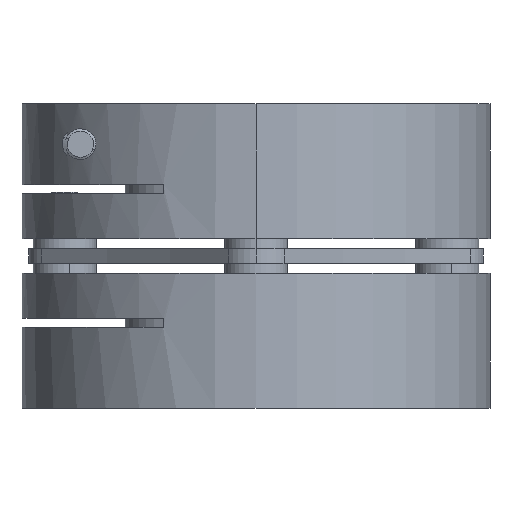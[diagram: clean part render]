
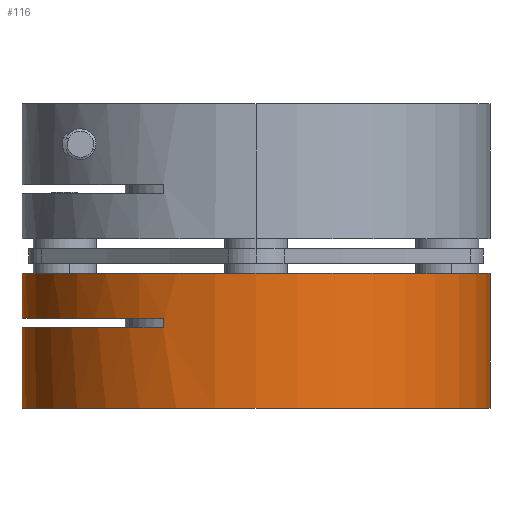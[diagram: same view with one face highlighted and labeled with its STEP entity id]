
A CAD part, left-side view. The second image highlights one B-rep face of the part: STEP entity #116.
In plain terms, the highlighted cylindrical face has radius 52 mm (diameter 104 mm), a partial arc.
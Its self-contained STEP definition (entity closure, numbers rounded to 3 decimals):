
#116 = ADVANCED_FACE ( 'NONE', ( #1428 ), #6070, .T. ) ;
#190 = DIRECTION ( 'NONE',  ( 0., 0., -1. ) ) ;
#714 = DIRECTION ( 'NONE',  ( 0., 0., 1. ) ) ;
#740 = CARTESIAN_POINT ( 'NONE',  ( -131.828, 211.612, 73.237 ) ) ;
#809 = DIRECTION ( 'NONE',  ( 0., 0., 1. ) ) ;
#1297 = DIRECTION ( 'NONE',  ( 0., 0., 1. ) ) ;
#1428 = FACE_OUTER_BOUND ( 'NONE', #12555, .T. ) ;
#1431 = DIRECTION ( 'NONE',  ( 0., -1., 0. ) ) ;
#1571 = EDGE_CURVE ( 'NONE', #9182, #6116, #2139, .T. ) ;
#1575 = CIRCLE ( 'NONE', #3373, 52. ) ;
#1736 = CARTESIAN_POINT ( 'NONE',  ( -84.098, 190.975, 73.237 ) ) ;
#1969 = EDGE_CURVE ( 'NONE', #14456, #6116, #2457, .T. ) ;
#1990 = LINE ( 'NONE', #14189, #13634 ) ;
#2139 = CIRCLE ( 'NONE', #7688, 52. ) ;
#2457 = LINE ( 'NONE', #13452, #11530 ) ;
#2527 = EDGE_CURVE ( 'NONE', #8937, #14456, #14537, .T. ) ;
#2609 = AXIS2_PLACEMENT_3D ( 'NONE', #7041, #190, #8224 ) ;
#3235 = VERTEX_POINT ( 'NONE', #5716 ) ;
#3373 = AXIS2_PLACEMENT_3D ( 'NONE', #3604, #11571, #4747 ) ;
#3414 = CARTESIAN_POINT ( 'NONE',  ( -84.098, 138.975, 53.237 ) ) ;
#3604 = CARTESIAN_POINT ( 'NONE',  ( -84.098, 190.975, 53.237 ) ) ;
#4201 = CARTESIAN_POINT ( 'NONE',  ( -84.098, 242.975, 53.237 ) ) ;
#4229 = AXIS2_PLACEMENT_3D ( 'NONE', #10077, #10061, #10044 ) ;
#4747 = DIRECTION ( 'NONE',  ( 0., 1., 0. ) ) ;
#4961 = AXIS2_PLACEMENT_3D ( 'NONE', #12271, #12274, #12015 ) ;
#5280 = ORIENTED_EDGE ( 'NONE', *, *, #13930, .F. ) ;
#5296 = ORIENTED_EDGE ( 'NONE', *, *, #14559, .F. ) ;
#5399 = ORIENTED_EDGE ( 'NONE', *, *, #14312, .T. ) ;
#5436 = ORIENTED_EDGE ( 'NONE', *, *, #14584, .T. ) ;
#5629 = ORIENTED_EDGE ( 'NONE', *, *, #14261, .F. ) ;
#5716 = CARTESIAN_POINT ( 'NONE',  ( -84.098, 138.975, 83.237 ) ) ;
#5765 = ORIENTED_EDGE ( 'NONE', *, *, #1571, .T. ) ;
#5840 = ORIENTED_EDGE ( 'NONE', *, *, #1969, .F. ) ;
#5940 = ORIENTED_EDGE ( 'NONE', *, *, #2527, .F. ) ;
#6040 = VECTOR ( 'NONE', #809, 1000. ) ;
#6070 = CYLINDRICAL_SURFACE ( 'NONE', #4961, 52. ) ;
#6116 = VERTEX_POINT ( 'NONE', #740 ) ;
#6613 = CARTESIAN_POINT ( 'NONE',  ( -84.098, 138.975, 53.237 ) ) ;
#6871 = CARTESIAN_POINT ( 'NONE',  ( -84.098, 242.975, 73.237 ) ) ;
#6915 = CIRCLE ( 'NONE', #2609, 52. ) ;
#6968 = VERTEX_POINT ( 'NONE', #3414 ) ;
#7041 = CARTESIAN_POINT ( 'NONE',  ( -84.098, 190.975, 83.237 ) ) ;
#7688 = AXIS2_PLACEMENT_3D ( 'NONE', #1736, #1297, #1431 ) ;
#7977 = CARTESIAN_POINT ( 'NONE',  ( -131.828, 211.612, 71.237 ) ) ;
#8224 = DIRECTION ( 'NONE',  ( 0., 1., 0. ) ) ;
#8937 = VERTEX_POINT ( 'NONE', #10085 ) ;
#9182 = VERTEX_POINT ( 'NONE', #6871 ) ;
#9456 = LINE ( 'NONE', #4201, #6040 ) ;
#10044 = DIRECTION ( 'NONE',  ( 0., -1., 0. ) ) ;
#10061 = DIRECTION ( 'NONE',  ( 0., 0., 1. ) ) ;
#10077 = CARTESIAN_POINT ( 'NONE',  ( -84.098, 190.975, 71.237 ) ) ;
#10085 = CARTESIAN_POINT ( 'NONE',  ( -84.098, 242.975, 71.237 ) ) ;
#10717 = VERTEX_POINT ( 'NONE', #12034 ) ;
#11195 = CARTESIAN_POINT ( 'NONE',  ( -84.098, 242.975, 83.237 ) ) ;
#11530 = VECTOR ( 'NONE', #13528, 1000. ) ;
#11571 = DIRECTION ( 'NONE',  ( 0., 0., -1. ) ) ;
#12015 = DIRECTION ( 'NONE',  ( 0., -1., 0. ) ) ;
#12034 = CARTESIAN_POINT ( 'NONE',  ( -84.098, 242.975, 53.237 ) ) ;
#12271 = CARTESIAN_POINT ( 'NONE',  ( -84.098, 190.975, 53.237 ) ) ;
#12274 = DIRECTION ( 'NONE',  ( 0., 0., 1. ) ) ;
#12555 = EDGE_LOOP ( 'NONE', ( #5280, #5296, #5399, #5436, #5629, #5765, #5840, #5940 ) ) ;
#13368 = DIRECTION ( 'NONE',  ( 0., 0., 1. ) ) ;
#13452 = CARTESIAN_POINT ( 'NONE',  ( -131.828, 211.612, 71.237 ) ) ;
#13528 = DIRECTION ( 'NONE',  ( 0., 0., 1. ) ) ;
#13622 = LINE ( 'NONE', #6613, #14577 ) ;
#13634 = VECTOR ( 'NONE', #714, 1000. ) ;
#13930 = EDGE_CURVE ( 'NONE', #10717, #8937, #1990, .T. ) ;
#14125 = VERTEX_POINT ( 'NONE', #11195 ) ;
#14189 = CARTESIAN_POINT ( 'NONE',  ( -84.098, 242.975, 53.237 ) ) ;
#14261 = EDGE_CURVE ( 'NONE', #9182, #14125, #9456, .T. ) ;
#14312 = EDGE_CURVE ( 'NONE', #6968, #3235, #13622, .T. ) ;
#14456 = VERTEX_POINT ( 'NONE', #7977 ) ;
#14537 = CIRCLE ( 'NONE', #4229, 52. ) ;
#14559 = EDGE_CURVE ( 'NONE', #6968, #10717, #1575, .T. ) ;
#14577 = VECTOR ( 'NONE', #13368, 1000. ) ;
#14584 = EDGE_CURVE ( 'NONE', #3235, #14125, #6915, .T. ) ;
